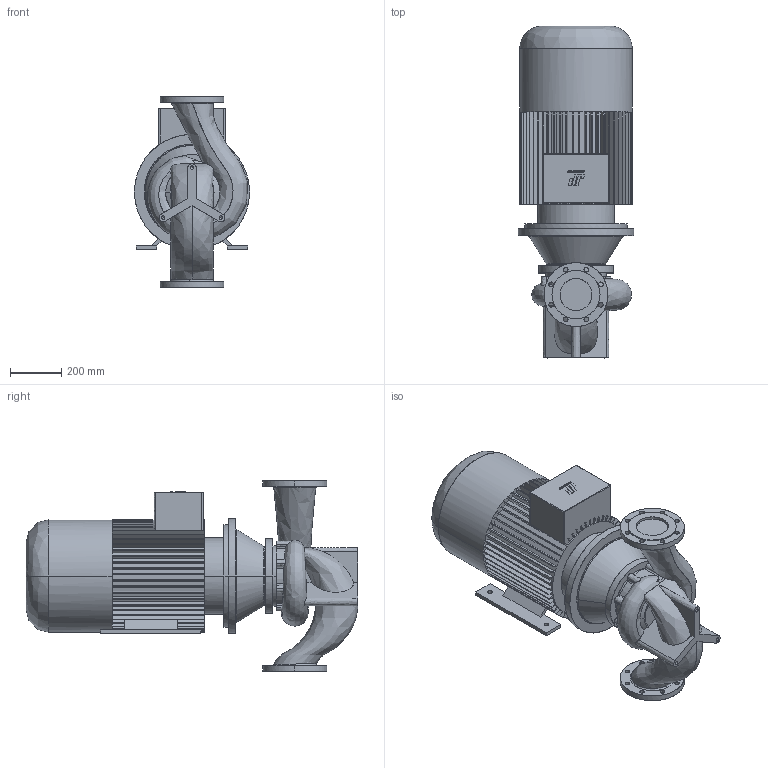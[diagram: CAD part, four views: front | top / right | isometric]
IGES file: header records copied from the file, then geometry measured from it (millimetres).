
Start section: CombiLine
Global section: file name: CLB_125-200_IEC225M_ND10.igs; native system:  By UGS Corp.; preprocessor: XPlus GENERIC/IGES 3.0; author: Stageplaats; organization: Johnson Pump Water B.V.; date: 20070717.134026; units: millimetre
Bounding box: 450 x 1297 x 750 mm (x, y, z)
Surface area: 3575308.2 mm2 (no closed solid volume)
Topology: 0 solids, 0 shells, 605 faces, 3661 edges, 3655 vertices
Faces by surface type: bspline 605
